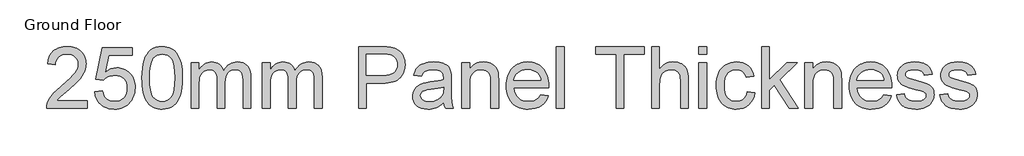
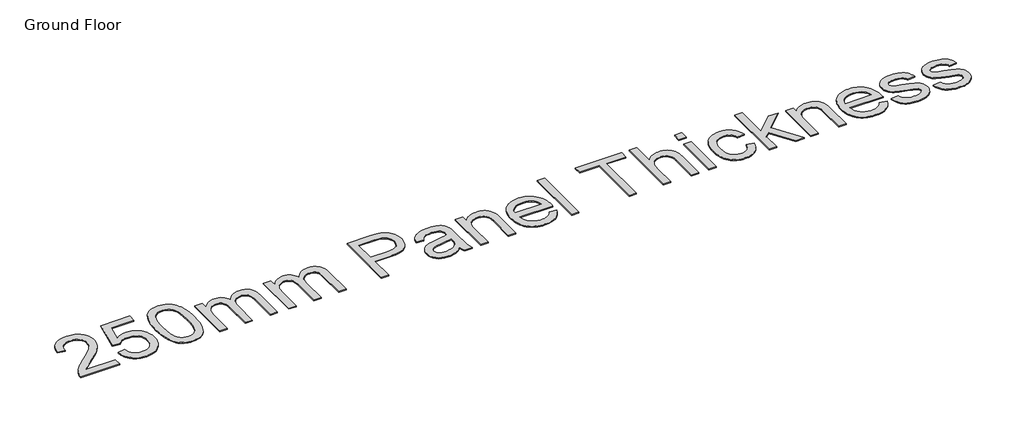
# One storey, part 12 of 12: 1 proxy.
"""IFC4 building model written with IfcOpenShell, lengths in millimetres."""

from ifc_helpers import new_model, si_unit, origin, origin_with_axes, place, context, project, spatial, polyline, outline, extrude, element, save

model = new_model("IFC4")

# Units and contexts
model_context = context("Model", 3, world=origin())
ifc_project = project(units=[si_unit("LENGTHUNIT", "METRE", prefix="MILLI")], contexts=[model_context])

# Site, building, storey
site = spatial("IfcSite", under=ifc_project)
building = spatial("IfcBuilding", under=site)
storey = spatial("IfcBuildingStorey", under=building, Name="Ground Floor", Elevation=0.0)

# Proxy
placement = place(None, origin())
element("IfcBuildingElementProxy", 1, Name="1200mm Arial", ObjectType="1200mm Arial", at=placement, inside=storey, context=model_context, shape_type="SweptSolid", body=[
    extrude(outline(polyline([(180918.008716, 23161.0787155), (180918.008716, 23010.3942503), (180126.9152736, 23010.3942503), (180130.2262116, 23063.442834), (180143.1020814, 23114.2841257), (180159.5280125, 23155.1834065), (180180.2581629, 23195.475682), (180205.2925327, 23235.1609523), (180234.6311218, 23274.2392172), (180270.0397638, 23314.2371871), (180313.2842924, 23356.6815723), (180423.2810089, 23448.9095885), (180512.713122, 23525.8521078), (180585.8848508, 23593.3400598), (180642.7961955, 23651.3734446), (180683.4471559, 23699.952262), (180711.9028282, 23743.5094903), (180732.2283085, 23786.4781073), (180744.4235966, 23828.8581131), (180748.4886927, 23870.6495078), (180744.6535229, 23909.966896), (180733.1480135, 23946.102105), (180713.9721645, 23979.0551347), (180687.1259759, 24008.8259852), (180654.0993698, 24033.4832759), (180616.3822682, 24051.0956264), (180573.9746712, 24061.6630367), (180526.8765788, 24065.1855068), (180477.2584947, 24061.7458102), (180432.882729, 24051.4267202), (180393.7492818, 24034.2282369), (180359.858153, 24010.1503604), (180332.4417473, 23980.0024309), (180312.7324694, 23944.5937888), (180300.7303193, 23903.9244342), (180296.435297, 23857.9943672), (180145.7508318, 23876.8299253), (180158.709475, 23954.6185732), (180169.16882, 23989.8294786), (180182.2815139, 24022.5847718), (180198.0475566, 24052.8844526), (180216.4669483, 24080.7285211), (180237.5396888, 24106.1169773), (180261.2657783, 24129.0498212), (180287.3876992, 24149.3982941), (180315.6479342, 24167.0336372), (180346.0464833, 24181.9558506), (180378.5833465, 24194.1649343), (180450.0720152, 24210.4437126), (180530.1139403, 24215.8699721), (180610.8732353, 24209.8367073), (180647.9212515, 24202.2951264), (180682.7481801, 24191.7369132), (180715.3540212, 24178.1620676), (180745.7387748, 24161.5705896), (180773.9024407, 24141.9624792), (180799.8450192, 24119.3377365), (180823.1250517, 24094.4781107), (180843.3010799, 24068.165351), (180860.3731037, 24040.3994574), (180874.3411232, 24011.1804299), (180885.2051384, 23980.5082686), (180892.9651492, 23948.3829734), (180897.6211557, 23914.8045443), (180899.1731579, 23879.7729813), (180897.4992948, 23843.58259), (180892.4777056, 23807.7048984), (180884.1083902, 23772.1399065), (180872.3913486, 23736.8876143), (180856.783955, 23701.3318195), (180836.7435833, 23664.8563197), (180783.3639058, 23589.1462051), (180746.529721, 23547.1616724), (180698.2728003, 23498.7575989), (180567.490751, 23382.6908294), (180394.1447549, 23237.7453233), (180356.547215, 23199.522384), (180326.1601622, 23161.0787155), (180918.008716, 23161.0787155)])), origin_with_axes(), (0.0, 0.0, 1.0), 20.0),
    extrude(outline(polyline([(181068.6931813, 23330.5987389), (181219.3776465, 23349.434297), (181230.6348355, 23300.9934353), (181247.0423725, 23258.9721144), (181268.6002574, 23223.3703343), (181295.3084903, 23194.1880951), (181327.1118888, 23171.4621848), (181363.9552706, 23155.2293918), (181405.8386357, 23145.4897159), (181452.7619842, 23142.2431573), (181510.1515755, 23146.7589088), (181560.772138, 23160.3061633), (181604.6236718, 23182.8849208), (181641.706177, 23214.4951812), (181671.1919189, 23253.5734461), (181692.2531631, 23298.5562171), (181704.8899096, 23349.4434941), (181709.1021585, 23406.2352771), (181705.1566241, 23459.9092602), (181693.3200209, 23507.6235549), (181673.5923489, 23549.3781614), (181645.9736081, 23585.1730795), (181610.371828, 23613.8862693), (181566.6950381, 23634.3956905), (181514.9432385, 23646.7013432), (181455.116429, 23650.8032275), (181416.8291104, 23649.1661526), (181382.0182766, 23644.254928), (181350.6839276, 23636.0695536), (181322.8260635, 23624.6100294), (181275.5532272, 23594.5172822), (181238.2132046, 23556.6254367), (181087.5287394, 23575.4609949), (181219.3776465, 24197.0344139), (181803.2799492, 24197.0344139), (181803.2799492, 24046.3499487), (181341.2201633, 24046.3499487), (181276.7672377, 23714.3732362), (181329.9445801, 23752.4858109), (181384.4095095, 23779.7090786), (181440.1620259, 23796.0430392), (181497.2021293, 23801.4876927), (181534.64102, 23799.800034), (181570.5853902, 23794.7370581), (181605.0352398, 23786.2987648), (181637.9905688, 23774.4851542), (181669.4513772, 23759.2962264), (181699.4176649, 23740.7319812), (181727.8894321, 23718.7924187), (181754.8666787, 23693.4775389), (181779.4572908, 23665.5093102), (181800.7691546, 23635.6097011), (181818.8022702, 23603.7787114), (181833.5566374, 23570.0163413), (181845.0322564, 23534.3225907), (181853.2291271, 23496.6974597), (181858.1472496, 23457.1409482), (181859.7866237, 23415.6530562), (181853.8821177, 23337.5884968), (181846.5014851, 23300.5979622), (181836.1685996, 23264.9685909), (181822.8834611, 23230.7003831), (181806.6460695, 23197.7933386), (181787.4564249, 23166.2474575), (181765.3145273, 23136.0627398), (181735.3137506, 23102.1946036), (181702.7010118, 23072.8422189), (181667.4763107, 23048.0055857), (181629.6396475, 23027.684704), (181589.1910221, 23011.8795738), (181546.1304346, 23000.5901951), (181500.4578849, 22993.8165679), (181452.173373, 22991.5586921), (181374.4123163, 22997.3620306), (181338.352983, 23004.6162037), (181304.1744464, 23014.772046), (181271.8767065, 23027.8295576), (181241.4597633, 23043.7887384), (181212.9236167, 23062.6495884), (181186.2682669, 23084.4121077), (181161.9305737, 23108.5704585), (181140.3473969, 23134.618803), (181121.5187365, 23162.5571413), (181105.4445926, 23192.3854733), (181092.1249651, 23224.103799), (181081.5598541, 23257.7121186), (181068.6931813, 23330.5987389)])), origin_with_axes(), (0.0, 0.0, 1.0), 20.0),
    extrude(outline(polyline([(181991.6355308, 23603.4200265), (181994.4038428, 23704.7807132), (182002.7087788, 23796.374133), (182016.5503389, 23878.2002857), (182035.928523, 23950.2591715), (182060.7605577, 24013.1394016), (182090.9636695, 24067.429587), (182126.5378584, 24113.1297279), (182167.4831245, 24150.2398241), (182213.9374234, 24178.9530138), (182266.038711, 24199.4624351), (182323.7869872, 24211.7680878), (182387.182252, 24215.8699721), (182434.8229704, 24213.4419509), (182480.0356676, 24206.1578874), (182522.8203436, 24194.0177815), (182563.1769985, 24177.0216334), (182600.1307449, 24155.4545514), (182632.7066956, 24129.6016442), (182660.9048505, 24099.4629117), (182684.7252097, 24065.038354), (182705.3633896, 24026.4659268), (182724.0150068, 23983.8835859), (182755.3585528, 23886.6891628), (182767.3331117, 23829.5294978), (182775.8863681, 23763.2647534), (182781.0183219, 23687.8949296), (182782.7289732, 23603.4200265), (182779.9882523, 23502.7031333), (182771.7660897, 23411.569566), (182758.0624854, 23330.0193247), (182738.8774394, 23258.0524094), (182714.2385427, 23195.1445882), (182684.1733867, 23140.7716294), (182648.6819712, 23094.9335328), (182607.7642963, 23057.6302984), (182561.2548151, 23028.7239707), (182508.9879806, 23008.0765937), (182450.9637929, 22995.6881675), (182387.182252, 22991.5586921), (182344.5079405, 22993.3521168), (182304.1880739, 22998.732391), (182266.222652, 23007.6995146), (182230.6116748, 23020.2534877), (182197.3551425, 23036.3943103), (182166.4530549, 23056.1219823), (182137.9054121, 23079.4365037), (182111.712214, 23106.3378746), (182083.5692414, 23148.9340111), (182059.1786651, 23197.1127569), (182038.5404852, 23250.874112), (182021.6547016, 23310.2180763), (182008.5213143, 23375.14465), (181999.1403235, 23445.6538329), (181993.5117289, 23521.745625), (181991.6355308, 23603.4200265)]), holes=[polyline([(182142.319996, 23603.7143321), (182146.7345799, 23472.7207507), (182159.9783318, 23366.6879626), (182169.9111456, 23323.0318661), (182182.0512515, 23285.6159679), (182196.3986493, 23254.4402681), (182212.9533391, 23229.5047666), (182250.3301498, 23191.3278125), (182291.8272388, 23164.0585596), (182337.4446062, 23147.6970079), (182387.182252, 23142.2431573), (182436.9198977, 23147.715402), (182482.5372651, 23164.132136), (182524.0343542, 23191.4933594), (182561.4111649, 23229.7990722), (182577.9658547, 23254.7943545), (182592.3132525, 23286.002244), (182604.4533583, 23323.4227407), (182614.3861722, 23367.0558446), (182627.629924, 23472.9598739), (182632.044508, 23603.7143321), (182627.7770768, 23731.2406257), (182614.9747834, 23835.4064126), (182605.3730633, 23878.7291161), (182593.6376277, 23916.2116929), (182579.7684765, 23947.854143), (182563.7656097, 23973.6564664), (182527.0141983, 24013.7004216), (182485.0388627, 24042.3032467), (182437.8396027, 24059.4649418), (182385.4164184, 24065.1855068), (182335.9362901, 24060.1455235), (182291.0914748, 24045.0255735), (182250.8819728, 24019.8256568), (182215.3077838, 23984.5457735), (182198.2012711, 23955.9981307), (182183.3756267, 23922.0058343), (182170.8308506, 23882.5688844), (182160.566943, 23837.687281), (182146.8817327, 23731.5901136), (182142.319996, 23603.7143321)])]), origin_with_axes(), (0.0, 0.0, 1.0), 20.0),
    extrude(outline(polyline([(182952.2489966, 23010.3942503), (182952.2489966, 23895.6654835), (183102.9334618, 23895.6654835), (183102.9334618, 23749.9842134), (183123.9763119, 23785.2548997), (183148.2565236, 23816.9019483), (183175.7740968, 23844.9253593), (183206.5290316, 23869.3251326), (183240.0246873, 23889.0895928), (183275.7644231, 23903.2070644), (183313.7482391, 23911.6775473), (183353.9761353, 23914.5010416), (183397.9564278, 23911.622365), (183437.7796538, 23902.9863352), (183473.4458132, 23888.5929521), (183504.9549061, 23868.4422158), (183532.214962, 23843.1043434), (183555.1340103, 23813.1495519), (183573.712051, 23778.5778414), (183587.9490842, 23739.3892119), (183614.4457849, 23780.431047), (183642.8738661, 23816.0006374), (183673.2333278, 23846.0979831), (183705.5241699, 23870.7230842), (183739.7463925, 23889.8759406), (183775.8999956, 23903.5565523), (183813.9849791, 23911.7649193), (183854.0013432, 23914.5010416), (183914.3247933, 23909.9485019), (183967.2722095, 23896.2908828), (184012.8435916, 23873.5281844), (184051.0389398, 23841.6604066), (184067.2142512, 23822.2201424), (184081.2328545, 23800.3196674), (184102.7999365, 23749.1380848), (184115.7401857, 23688.1156588), (184120.0536021, 23617.2523895), (184120.0536021, 23010.3942503), (183969.3691368, 23010.3942503), (183969.3691368, 23552.5051584), (183965.8742579, 23627.66345), (183955.389621, 23678.3208007), (183946.9835174, 23696.5953388), (183935.7447225, 23713.0120729), (183921.6732362, 23727.5710028), (183904.7690585, 23740.2721287), (183885.6483918, 23750.5728246), (183864.9274384, 23757.9304645), (183818.6846716, 23763.8165764), (183775.982769, 23760.0457859), (183737.0516569, 23748.7334146), (183701.8913352, 23729.8794623), (183670.501804, 23703.4839292), (183644.6856849, 23668.7742629), (183626.2455999, 23624.9779114), (183615.1815489, 23572.0948746), (183611.4935319, 23510.1251525), (183611.4935319, 23010.3942503), (183460.8090667, 23010.3942503), (183460.8090667, 23569.2805773), (183458.6293659, 23614.9347329), (183452.0902634, 23654.4820474), (183441.1917593, 23687.9225208), (183425.9338536, 23715.256153), (183405.7095409, 23736.5013382), (183379.911816, 23751.6764705), (183348.5406788, 23760.7815499), (183311.5961295, 23763.8165764), (183282.000023, 23761.7932254), (183253.5443506, 23755.7231725), (183226.2291125, 23745.6064176), (183200.0543085, 23731.4429608), (183176.2155552, 23713.3799548), (183155.9084691, 23691.5645525), (183139.1330501, 23665.9967539), (183125.8892983, 23636.6765589), (183115.8461198, 23602.040469), (183108.6724209, 23560.5249859), (183104.3682016, 23512.1301094), (183102.9334618, 23456.8558396), (183102.9334618, 23010.3942503), (182952.2489966, 23010.3942503)])), origin_with_axes(), (0.0, 0.0, 1.0), 20.0),
    extrude(outline(polyline([(184346.0802999, 23010.3942503), (184346.0802999, 23895.6654835), (184496.7647651, 23895.6654835), (184496.7647651, 23749.9842134), (184517.8076152, 23785.2548997), (184542.0878269, 23816.9019483), (184569.6054002, 23844.9253593), (184600.360335, 23869.3251326), (184633.8559906, 23889.0895928), (184669.5957265, 23903.2070644), (184707.5795425, 23911.6775473), (184747.8074386, 23914.5010416), (184791.7877312, 23911.622365), (184831.6109571, 23902.9863352), (184867.2771166, 23888.5929521), (184898.7862095, 23868.4422158), (184926.0462653, 23843.1043434), (184948.9653136, 23813.1495519), (184967.5433544, 23778.5778414), (184981.7803876, 23739.3892119), (185008.2770883, 23780.431047), (185036.7051694, 23816.0006374), (185067.0646311, 23846.0979831), (185099.3554732, 23870.7230842), (185133.5776958, 23889.8759406), (185169.7312989, 23903.5565523), (185207.8162825, 23911.7649193), (185247.8326465, 23914.5010416), (185308.1560966, 23909.9485019), (185361.1035128, 23896.2908828), (185406.6748949, 23873.5281844), (185444.8702431, 23841.6604066), (185461.0455546, 23822.2201424), (185475.0641578, 23800.3196674), (185496.6312398, 23749.1380848), (185509.571489, 23688.1156588), (185513.8849054, 23617.2523895), (185513.8849054, 23010.3942503), (185363.2004402, 23010.3942503), (185363.2004402, 23552.5051584), (185359.7055612, 23627.66345), (185349.2209243, 23678.3208007), (185340.8148208, 23696.5953388), (185329.5760258, 23713.0120729), (185315.5045395, 23727.5710028), (185298.6003618, 23740.2721287), (185279.4796951, 23750.5728246), (185258.7587417, 23757.9304645), (185212.5159749, 23763.8165764), (185169.8140724, 23760.0457859), (185130.8829602, 23748.7334146), (185095.7226385, 23729.8794623), (185064.3331073, 23703.4839292), (185038.5169883, 23668.7742629), (185020.0769033, 23624.9779114), (185009.0128523, 23572.0948746), (185005.3248353, 23510.1251525), (185005.3248353, 23010.3942503), (184854.64037, 23010.3942503), (184854.64037, 23569.2805773), (184852.4606692, 23614.9347329), (184845.9215667, 23654.4820474), (184835.0230626, 23687.9225208), (184819.7651569, 23715.256153), (184799.5408442, 23736.5013382), (184773.7431193, 23751.6764705), (184742.3719822, 23760.7815499), (184705.4274328, 23763.8165764), (184675.8313263, 23761.7932254), (184647.3756539, 23755.7231725), (184620.0604158, 23745.6064176), (184593.8856119, 23731.4429608), (184570.0468586, 23713.3799548), (184549.7397724, 23691.5645525), (184532.9643534, 23665.9967539), (184519.7206016, 23636.6765589), (184509.6774232, 23602.040469), (184502.5037242, 23560.5249859), (184498.1995049, 23512.1301094), (184496.7647651, 23456.8558396), (184496.7647651, 23010.3942503), (184346.0802999, 23010.3942503)])), origin_with_axes(), (0.0, 0.0, 1.0), 20.0),
    extrude(outline(polyline([(186229.6361152, 23010.3942503), (186229.6361152, 24215.8699721), (186676.3920101, 24215.8699721), (186780.4290384, 24213.0004925), (186856.507035, 24204.3920538), (186898.4363854, 24195.3513538), (186936.8156745, 24182.9445335), (186971.6449024, 24167.1715929), (187002.9240691, 24148.0325321), (187030.9842682, 24125.1318779), (187056.1565938, 24098.0741572), (187078.4410456, 24066.8593699), (187097.8376238, 24031.4875161), (187113.546185, 23993.126621), (187124.7665859, 23952.9447101), (187131.4988264, 23910.9417833), (187133.7429066, 23867.1178406), (187127.6820507, 23793.1183773), (187120.1059808, 23758.3397332), (187109.4994831, 23725.0418141), (187095.8625574, 23693.22462), (187079.1952037, 23662.888151), (187059.4974221, 23634.032407), (187036.7692126, 23606.657388), (187010.0862717, 23581.6873976), (186978.5242957, 23560.0467393), (186942.0832849, 23541.7354129), (186900.763239, 23526.7534187), (186854.5641582, 23515.1007565), (186803.4860424, 23506.7774264), (186747.5288917, 23501.7834283), (186686.692706, 23500.1187622), (186380.3205804, 23500.1187622), (186380.3205804, 23010.3942503), (186229.6361152, 23010.3942503)]), holes=[polyline([(186380.3205804, 23650.8032275), (186695.5218739, 23650.8032275), (186767.9946269, 23654.2613182), (186829.1366145, 23664.6355905), (186878.9478367, 23681.9260443), (186917.4282934, 23706.1326795), (186946.1414831, 23736.6117028), (186966.6509043, 23772.7193207), (186978.9565571, 23814.455533), (186983.0584413, 23861.8203399), (186980.6396172, 23896.9898586), (186973.3831449, 23929.510627), (186961.2890243, 23959.382645), (186944.3572554, 23986.6059127), (186923.4891493, 24010.2975132), (186899.5860166, 24029.5745297), (186872.6478575, 24044.4369623), (186842.674672, 24054.884811), (186784.5493167, 24062.6103329), (186691.9902067, 24065.1855068), (186380.3205804, 24065.1855068), (186380.3205804, 23650.8032275)])]), origin_with_axes(), (0.0, 0.0, 1.0), 20.0),
    extrude(outline(polyline([(187887.1652327, 23123.4075992), (187851.4346939, 23089.8751553), (187815.1707262, 23061.6770004), (187778.3733296, 23038.8131344), (187741.0425042, 23021.2835573), (187702.7551855, 23008.2789288), (187663.0883094, 22998.9899084), (187622.0418758, 22993.4164962), (187579.6158847, 22991.5586921), (187512.5234058, 22996.0284584), (187453.6898778, 23009.4377571), (187403.1153005, 23031.7865883), (187360.799674, 23063.074952), (187327.3867918, 23101.3162854), (187303.5204473, 23144.5240257), (187289.2006407, 23192.698173), (187284.4273718, 23245.8387272), (187286.2299936, 23277.7892785), (187291.6378589, 23308.30509), (187300.6509678, 23337.3861617), (187313.2693202, 23365.0324936), (187328.8215315, 23390.6370805), (187346.6362172, 23413.592917), (187366.713377, 23433.9000031), (187389.0530112, 23451.5583389), (187438.9010216, 23480.2531345), (187494.5615674, 23501.001679), (187548.7873735, 23512.5531737), (187624.9389465, 23523.6632099), (187779.0079261, 23547.5019632), (187838.4944447, 23560.9664442), (187886.2823159, 23575.4609949), (187887.1652327, 23609.0118328), (187884.5716646, 23645.5425149), (187876.7909604, 23676.2606615), (187863.8231201, 23701.1662726), (187845.6681436, 23720.2593482), (187814.2878094, 23739.3156355), (187776.0648701, 23752.9272693), (187730.9993257, 23761.0942496), (187679.0911762, 23763.8165764), (187630.8250584, 23762.0047576), (187589.3279694, 23756.5693011), (187554.599909, 23747.5102069), (187526.6408774, 23734.8274752), (187503.6666468, 23717.5278243), (187483.8929896, 23694.6179731), (187467.3199057, 23666.0979214), (187453.9473952, 23631.9676693), (187303.2629299, 23650.8032275), (187314.7316511, 23694.2133029), (187329.4193398, 23733.2087944), (187347.3259959, 23767.7897019), (187368.4516195, 23797.9560255), (187393.7067184, 23824.3147705), (187424.0018007, 23847.4729421), (187459.3368664, 23867.4305403), (187499.7119154, 23884.1875652), (187544.3084102, 23897.4497111), (187592.3078135, 23906.9226725), (187643.7101253, 23912.6064493), (187698.5153455, 23914.5010416), (187752.0881611, 23912.8271785), (187800.38187, 23907.8055893), (187843.3964723, 23899.4362739), (187881.131968, 23887.7192324), (187913.9010567, 23873.4730021), (187942.0164382, 23857.5161206), (187965.4781124, 23839.8485877), (187984.2860794, 23820.4704036), (187999.5347881, 23798.9033217), (188012.3186874, 23774.6690952), (188030.492058, 23718.199209), (188036.0102879, 23666.1071185), (188037.8496979, 23586.3503019), (188037.8496979, 23398.8776372), (188039.7626843, 23235.5748195), (188045.5016434, 23137.0928094), (188056.8324088, 23072.3823665), (188075.5208142, 23010.3942503), (187924.836349, 23010.3942503), (187911.4454444, 23035.5573787), (187900.7032901, 23062.7806464), (187887.1652327, 23123.4075992)]), holes=[polyline([(187887.1652327, 23424.7765296), (187841.6214417, 23411.7351129), (187785.9241076, 23399.6869776), (187644.0688103, 23378.570551), (187565.8938863, 23367.0190564), (187514.4271952, 23354.1431866), (187480.6924162, 23337.441344), (187455.7132287, 23314.4119311), (187440.2621849, 23286.8207814), (187435.111837, 23256.4337286), (187437.9169372, 23233.0180396), (187446.3322379, 23211.6257016), (187460.3577389, 23192.2567146), (187479.9934404, 23174.9110785), (187505.0554013, 23160.618863), (187535.3596807, 23150.4101376), (187570.9062785, 23144.2849024), (187611.6951947, 23142.2431573), (187653.3394365, 23144.4964346), (187692.6292336, 23151.2562662), (187729.5645859, 23162.5226523), (187764.1454935, 23178.2955929), (187795.3418867, 23197.2691068), (187822.1236959, 23218.1372129), (187844.4909212, 23240.8999114), (187862.4435626, 23265.5572021), (187872.8730172, 23287.6301218), (187880.3226276, 23314.4119311), (187884.7923938, 23345.9026299), (187886.2823159, 23382.1022182), (187887.1652327, 23424.7765296)])]), origin_with_axes(), (0.0, 0.0, 1.0), 20.0),
    extrude(outline(polyline([(188245.0408376, 23010.3942503), (188245.0408376, 23895.6654835), (188395.7253028, 23895.6654835), (188395.7253028, 23772.0571331), (188420.5849286, 23805.4424241), (188448.0749107, 23834.3763431), (188478.1952491, 23858.8588898), (188510.9459437, 23878.8900645), (188546.3269946, 23894.469867), (188584.3384017, 23905.5982973), (188624.9801652, 23912.2753555), (188668.2522848, 23914.5010416), (188706.1717215, 23912.7076169), (188742.5276597, 23907.3273427), (188777.3200994, 23898.3602191), (188810.5490406, 23885.806246), (188840.9544875, 23870.3368081), (188867.2764442, 23852.62329), (188889.5149108, 23832.6656918), (188907.6698873, 23810.4640134), (188935.0770959, 23759.4387806), (188952.8457963, 23699.6579564), (188958.8054846, 23642.4890944), (188960.7920474, 23553.9766863), (188960.7920474, 23010.3942503), (188810.1075822, 23010.3942503), (188810.1075822, 23533.6696002), (188805.7665746, 23611.5870068), (188800.3403152, 23642.1028183), (188792.743552, 23666.9900353), (188782.3968709, 23687.9501119), (188768.7208577, 23706.6845025), (188751.7155125, 23723.1932071), (188731.3808352, 23737.4762255), (188708.4158017, 23749.000129), (188683.5193876, 23757.2314887), (188656.6915931, 23762.1703045), (188627.9324182, 23763.8165764), (188582.177095, 23760.1193623), (188539.6775275, 23749.0277202), (188500.4337157, 23730.5416499), (188464.4456595, 23704.6611516), (188448.3393259, 23688.2122279), (188434.3805034, 23668.4431691), (188422.5691921, 23645.3539754), (188412.905392, 23618.9446467), (188400.0203251, 23556.1655842), (188395.7253028, 23480.1059817), (188395.7253028, 23010.3942503), (188245.0408376, 23010.3942503)])), origin_with_axes(), (0.0, 0.0, 1.0), 20.0),
    extrude(outline(polyline([(189787.7907726, 23274.0920644), (189935.5321818, 23255.2565063), (189912.879848, 23196.0826873), (189882.2996571, 23143.9354145), (189843.7916093, 23098.8146878), (189797.3557044, 23060.7205072), (189743.4701892, 23030.4622131), (189682.6133101, 23008.8491459), (189614.7850673, 22995.8813056), (189539.9854606, 22991.5586921), (189491.9630647, 22993.423394), (189446.4882515, 22999.0174996), (189403.5610212, 23008.3410089), (189363.1813737, 23021.3939219), (189325.349309, 23038.1762387), (189290.0648272, 23058.6879592), (189257.3279281, 23082.9290834), (189227.1386119, 23110.8996113), (189200.0303074, 23142.2362595), (189176.5364435, 23176.5757445), (189156.6570202, 23213.9180663), (189140.3920374, 23254.2632249), (189127.7414953, 23297.6112202), (189118.7053938, 23343.9620523), (189113.2837329, 23393.3157213), (189111.4765126, 23445.672227), (189113.302127, 23499.8106611), (189118.7789702, 23550.8312953), (189127.9070422, 23598.7341296), (189140.686343, 23643.519164), (189157.1168726, 23685.1863984), (189177.1986311, 23723.735833), (189200.9316183, 23759.1674677), (189228.3158343, 23791.4813024), (189258.6109166, 23820.3140538), (189291.0765027, 23845.3024383), (189325.7125925, 23866.446456), (189362.5191861, 23883.7461068), (189401.4962835, 23897.2013908), (189442.6438847, 23906.8123079), (189485.9619896, 23912.5788582), (189531.4505983, 23914.5010416), (189575.4515842, 23912.5834567), (189617.3970294, 23906.830702), (189657.286934, 23897.2427775), (189695.121298, 23883.8196832), (189730.9001213, 23866.5614191), (189764.6234039, 23845.4679852), (189796.2911459, 23820.5393815), (189825.9033473, 23791.775608), (189852.7012513, 23759.5353497), (189875.9261015, 23724.1772914), (189895.5778979, 23685.7014332), (189911.6566403, 23644.1077752), (189924.1623289, 23599.3963172), (189933.0949636, 23551.5670593), (189938.4545444, 23500.6200015), (189940.2410714, 23446.5551437), (189939.3581546, 23405.9409715), (189262.1609778, 23405.9409715), (189270.8889782, 23345.8106594), (189288.2438113, 23293.1483518), (189314.2254772, 23247.9540486), (189348.8339759, 23210.22775), (189390.156321, 23180.4844907), (189436.2795262, 23159.2393055), (189487.2035913, 23146.4921944), (189542.9285166, 23142.2431573), (189584.6095466, 23144.211326), (189623.1267915, 23150.115832), (189658.4802513, 23159.9566754), (189690.6699258, 23173.7338561), (189719.6958152, 23191.8152562), (189745.5579195, 23214.5687576), (189768.2562386, 23241.9943603), (189787.7907726, 23274.0920644)]), holes=[polyline([(189262.1609778, 23556.6254367), (189789.5566061, 23556.6254367), (189781.8126901, 23599.2629599), (189769.1759436, 23636.2351005), (189751.6463665, 23667.5418582), (189729.2239589, 23693.1832333), (189688.1315401, 23724.0853209), (189641.3737385, 23746.1582406), (189588.9505542, 23759.4019924), (189530.8619871, 23763.8165764), (189477.8777828, 23760.2941063), (189429.2897683, 23749.726696), (189385.0979436, 23732.1143455), (189345.3023088, 23707.4570547), (189311.9078206, 23676.895258), (189286.9194361, 23641.5693894), (189270.3371552, 23601.479449), (189262.1609778, 23556.6254367)])]), origin_with_axes(), (0.0, 0.0, 1.0), 20.0),
    extrude(outline(polyline([(190090.9255366, 23010.3942503), (190090.9255366, 24215.8699721), (190241.6100018, 24215.8699721), (190241.6100018, 23010.3942503), (190090.9255366, 23010.3942503)])), origin_with_axes(), (0.0, 0.0, 1.0), 20.0),
    extrude(outline(polyline([(191258.7301421, 23010.3942503), (191258.7301421, 24065.1855068), (190863.1834209, 24065.1855068), (190863.1834209, 24215.8699721), (191804.9613285, 24215.8699721), (191804.9613285, 24065.1855068), (191409.4146073, 24065.1855068), (191409.4146073, 23010.3942503), (191258.7301421, 23010.3942503)])), origin_with_axes(), (0.0, 0.0, 1.0), 20.0),
    extrude(outline(polyline([(191955.6457937, 23010.3942503), (191955.6457937, 24215.8699721), (192106.330259, 24215.8699721), (192106.330259, 23772.6457443), (192133.1534549, 23805.8930796), (192161.6781051, 23834.7074369), (192191.9042096, 23859.0888161), (192223.8317682, 23879.0372173), (192257.4607811, 23894.5526404), (192292.7912482, 23905.6350855), (192329.8231696, 23912.2845526), (192368.5565451, 23914.5010416), (192415.6638346, 23912.0822175), (192459.5705507, 23904.8257451), (192500.2766935, 23892.7316245), (192537.7822629, 23875.7998557), (192571.1307658, 23854.6006557), (192599.3657089, 23829.7042417), (192622.4870923, 23801.1106136), (192640.494916, 23768.8197715), (192654.0145793, 23730.8359555), (192663.6714817, 23685.1634058), (192669.4656231, 23631.8021224), (192671.3970035, 23570.7521053), (192671.3970035, 23010.3942503), (192520.7125383, 23010.3942503), (192520.7125383, 23555.1539087), (192517.7143001, 23606.0319887), (192508.7195853, 23649.4788523), (192493.728394, 23685.4944996), (192472.7407262, 23714.0789306), (192446.2532225, 23735.8391507), (192414.7625237, 23751.3821649), (192378.2686298, 23760.7079735), (192336.7715407, 23763.8165764), (192304.4439104, 23761.719649), (192273.0911674, 23755.4288669), (192242.7133116, 23744.94423), (192213.3103432, 23730.2657384), (192186.4733516, 23712.0003974), (192163.7934266, 23690.7552121), (192145.2705681, 23666.5301828), (192130.9047762, 23639.3253092), (192120.1534249, 23607.8897927), (192112.4738883, 23570.9728345), (192107.8661663, 23528.5744346), (192106.330259, 23480.6945929), (192106.330259, 23010.3942503), (191955.6457937, 23010.3942503)])), origin_with_axes(), (0.0, 0.0, 1.0), 20.0),
    extrude(outline(polyline([(192878.5881432, 23010.3942503), (192878.5881432, 23895.6654835), (193029.2726085, 23895.6654835), (193029.2726085, 23010.3942503), (192878.5881432, 23010.3942503)])), origin_with_axes(), (0.0, 0.0, 1.0), 20.0),
    extrude(outline(polyline([(192878.5881432, 24065.1855068), (192878.5881432, 24215.8699721), (193029.2726085, 24215.8699721), (193029.2726085, 24065.1855068), (192878.5881432, 24065.1855068)])), origin_with_axes(), (0.0, 0.0, 1.0), 20.0),
    extrude(outline(polyline([(193820.3660509, 23330.5987389), (193971.0505161, 23311.7631807), (193954.6613732, 23240.6607881), (193929.0383923, 23177.7437699), (193894.1815732, 23123.012126), (193850.0909161, 23076.4658566), (193798.624225, 23039.3189721), (193741.6393039, 23012.7854832), (193679.1361529, 22996.8653899), (193611.114772, 22991.5586921), (193567.7667767, 22993.4095984), (193526.6030807, 22998.9623173), (193487.623684, 23008.2168487), (193450.8285867, 23021.1731927), (193416.2177888, 23037.8313493), (193383.7912902, 23058.1913185), (193353.5490909, 23082.2531002), (193325.491191, 23110.0166946), (193300.2108001, 23141.2383796), (193278.301128, 23175.6744336), (193259.7621747, 23213.3248566), (193244.5939402, 23254.1896485), (193232.7964245, 23298.2688093), (193224.3696275, 23345.562339), (193219.3135494, 23396.0702377), (193217.62819, 23449.7925053), (193220.5068666, 23519.073882), (193229.1428964, 23583.8854925), (193243.5362795, 23644.2273368), (193263.6870158, 23700.0994148), (193289.733061, 23750.3796865), (193321.812371, 23793.9461118), (193359.9249457, 23830.7986907), (193404.0707851, 23860.9374231), (193452.2541295, 23884.3715062), (193502.4792189, 23901.110137), (193554.7460533, 23911.1533155), (193609.0546329, 23914.5010416), (193675.9079884, 23909.9025167), (193736.3785914, 23896.1069419), (193790.4664417, 23873.1143172), (193838.1715395, 23840.9246426), (193878.6845442, 23800.2736821), (193911.1961155, 23751.8971997), (193935.7062534, 23695.7951955), (193952.214958, 23631.9676693), (193801.5304927, 23613.1321112), (193789.7674659, 23648.329221), (193774.1968605, 23678.8726237), (193754.8186764, 23704.7623191), (193731.6329136, 23725.9983073), (193705.2281834, 23742.5438), (193676.193097, 23754.3620091), (193644.5276542, 23761.4529346), (193610.2318552, 23763.8165764), (193559.0318786, 23759.1628691), (193512.8534911, 23745.2017474), (193471.6966929, 23721.9332112), (193435.5614839, 23689.3572606), (193419.8000397, 23669.3904653), (193406.1401214, 23646.7197373), (193385.1248624, 23593.2664834), (193372.515707, 23528.9974989), (193368.3126552, 23453.9127836), (193372.4237365, 23377.6968313), (193384.7569804, 23312.6828857), (193405.3123869, 23258.8709469), (193418.6734011, 23236.16573), (193434.0899559, 23216.2610148), (193469.507795, 23183.8782021), (193509.9840116, 23160.7476217), (193555.5186055, 23146.8692734), (193606.1115769, 23142.2431573), (193646.882099, 23145.131031), (193684.1393481, 23153.794652), (193717.8833241, 23168.2340203), (193748.114027, 23188.4491359), (193773.9853283, 23214.6607281), (193794.6510994, 23247.089526), (193810.1113403, 23285.7355296), (193820.3660509, 23330.5987389)])), origin_with_axes(), (0.0, 0.0, 1.0), 20.0),
    extrude(outline(polyline([(194102.8994232, 23010.3942503), (194102.8994232, 24215.8699721), (194253.5838884, 24215.8699721), (194253.5838884, 23568.103355), (194591.4467128, 23895.6654835), (194799.8150748, 23895.6654835), (194457.8319721, 23563.9830766), (194818.650633, 23010.3942503), (194642.6558865, 23010.3942503), (194349.8218183, 23459.2102844), (194253.5838884, 23365.9154104), (194253.5838884, 23010.3942503), (194102.8994232, 23010.3942503)])), origin_with_axes(), (0.0, 0.0, 1.0), 20.0),
    extrude(outline(polyline([(194950.4995401, 23010.3942503), (194950.4995401, 23895.6654835), (195101.1840053, 23895.6654835), (195101.1840053, 23772.0571331), (195126.0436311, 23805.4424241), (195153.5336132, 23834.3763431), (195183.6539516, 23858.8588898), (195216.4046462, 23878.8900645), (195251.7856971, 23894.469867), (195289.7971042, 23905.5982973), (195330.4388676, 23912.2753555), (195373.7109873, 23914.5010416), (195411.630424, 23912.7076169), (195447.9863621, 23907.3273427), (195482.7788018, 23898.3602191), (195516.0077431, 23885.806246), (195546.41319, 23870.3368081), (195572.7351467, 23852.62329), (195594.9736133, 23832.6656918), (195613.1285898, 23810.4640134), (195640.5357984, 23759.4387806), (195658.3044988, 23699.6579564), (195664.2641871, 23642.4890944), (195666.2507499, 23553.9766863), (195666.2507499, 23010.3942503), (195515.5662847, 23010.3942503), (195515.5662847, 23533.6696002), (195511.2252771, 23611.5870068), (195505.7990177, 23642.1028183), (195498.2022545, 23666.9900353), (195487.8555734, 23687.9501119), (195474.1795602, 23706.6845025), (195457.174215, 23723.1932071), (195436.8395377, 23737.4762255), (195413.8745041, 23749.000129), (195388.9780901, 23757.2314887), (195362.1502956, 23762.1703045), (195333.3911206, 23763.8165764), (195287.6357975, 23760.1193623), (195245.13623, 23749.0277202), (195205.8924182, 23730.5416499), (195169.904362, 23704.6611516), (195153.7980284, 23688.2122279), (195139.8392059, 23668.4431691), (195128.0278946, 23645.3539754), (195118.3640945, 23618.9446467), (195105.4790276, 23556.1655842), (195101.1840053, 23480.1059817), (195101.1840053, 23010.3942503), (194950.4995401, 23010.3942503)])), origin_with_axes(), (0.0, 0.0, 1.0), 20.0),
    extrude(outline(polyline([(196493.249475, 23274.0920644), (196640.9908843, 23255.2565063), (196618.3385505, 23196.0826873), (196587.7583596, 23143.9354145), (196549.2503118, 23098.8146878), (196502.8144069, 23060.7205072), (196448.9288917, 23030.4622131), (196388.0720126, 23008.8491459), (196320.2437698, 22995.8813056), (196245.4441631, 22991.5586921), (196197.4217671, 22993.423394), (196151.946954, 22999.0174996), (196109.0197237, 23008.3410089), (196068.6400762, 23021.3939219), (196030.8080115, 23038.1762387), (195995.5235297, 23058.6879592), (195962.7866306, 23082.9290834), (195932.5973144, 23110.8996113), (195905.4890099, 23142.2362595), (195881.995146, 23176.5757445), (195862.1157226, 23213.9180663), (195845.8507399, 23254.2632249), (195833.2001978, 23297.6112202), (195824.1640963, 23343.9620523), (195818.7424354, 23393.3157213), (195816.9352151, 23445.672227), (195818.7608295, 23499.8106611), (195824.2376727, 23550.8312953), (195833.3657447, 23598.7341296), (195846.1450455, 23643.519164), (195862.5755751, 23685.1863984), (195882.6573335, 23723.735833), (195906.3903208, 23759.1674677), (195933.7745368, 23791.4813024), (195964.0696191, 23820.3140538), (195996.5352052, 23845.3024383), (196031.171295, 23866.446456), (196067.9778886, 23883.7461068), (196106.954986, 23897.2013908), (196148.1025872, 23906.8123079), (196191.4206921, 23912.5788582), (196236.9093008, 23914.5010416), (196280.9102867, 23912.5834567), (196322.8557319, 23906.830702), (196362.7456365, 23897.2427775), (196400.5800005, 23883.8196832), (196436.3588237, 23866.5614191), (196470.0821064, 23845.4679852), (196501.7498484, 23820.5393815), (196531.3620497, 23791.775608), (196558.1599538, 23759.5353497), (196581.384804, 23724.1772914), (196601.0366004, 23685.7014332), (196617.1153428, 23644.1077752), (196629.6210314, 23599.3963172), (196638.5536661, 23551.5670593), (196643.9132469, 23500.6200015), (196645.6997738, 23446.5551437), (196644.8168571, 23405.9409715), (195967.6196803, 23405.9409715), (195976.3476807, 23345.8106594), (195993.7025138, 23293.1483518), (196019.6841797, 23247.9540486), (196054.2926784, 23210.22775), (196095.6150235, 23180.4844907), (196141.7382286, 23159.2393055), (196192.6622938, 23146.4921944), (196248.3872191, 23142.2431573), (196290.0682491, 23144.211326), (196328.585494, 23150.115832), (196363.9389537, 23159.9566754), (196396.1286283, 23173.7338561), (196425.1545177, 23191.8152562), (196451.016622, 23214.5687576), (196473.7149411, 23241.9943603), (196493.249475, 23274.0920644)]), holes=[polyline([(195967.6196803, 23556.6254367), (196495.0153086, 23556.6254367), (196487.2713926, 23599.2629599), (196474.6346461, 23636.2351005), (196457.105069, 23667.5418582), (196434.6826614, 23693.1832333), (196393.5902425, 23724.0853209), (196346.832441, 23746.1582406), (196294.4092566, 23759.4019924), (196236.3206896, 23763.8165764), (196183.3364853, 23760.2941063), (196134.7484707, 23749.726696), (196090.5566461, 23732.1143455), (196050.7610112, 23707.4570547), (196017.3665231, 23676.895258), (195992.3781386, 23641.5693894), (195975.7958577, 23601.479449), (195967.6196803, 23556.6254367)])]), origin_with_axes(), (0.0, 0.0, 1.0), 20.0),
    extrude(outline(polyline([(196739.8775646, 23274.0920644), (196890.5620298, 23292.9276226), (196899.6671092, 23258.5674442), (196914.3272067, 23228.474697), (196934.5423224, 23202.6493809), (196960.3124561, 23181.091496), (196991.7111844, 23164.0953478), (197028.8120836, 23151.955242), (197071.6151538, 23144.6711785), (197120.1203948, 23142.2431573), (197168.5704536, 23144.4688434), (197210.32506, 23151.1459016), (197245.3842142, 23162.274332), (197273.747916, 23177.8541345), (197295.6368947, 23196.4321752), (197311.2718795, 23216.5553204), (197320.6528704, 23238.2235699), (197323.7798674, 23261.4369238), (197320.6344763, 23281.7807981), (197311.1983031, 23299.8438041), (197295.4713478, 23315.6259417), (197273.4536104, 23329.1272109), (197217.0205124, 23348.2570746), (197118.3545612, 23372.0958279), (196980.8402714, 23411.8638716), (196891.4449466, 23445.8193798), (196860.7543912, 23462.8431191), (196834.0185672, 23482.8650967), (196811.2374746, 23505.8853125), (196792.4111135, 23531.9037666), (196777.6682426, 23560.1387098), (196767.1376205, 23589.8083927), (196760.8192472, 23620.9128154), (196758.7131228, 23653.4519778), (196760.4053799, 23683.2044342), (196765.4821515, 23711.8348505), (196773.9434374, 23739.3432267), (196785.7892376, 23765.7295628), (196800.5596997, 23790.4604299), (196817.7949712, 23813.0023991), (196837.495052, 23833.3554705), (196859.6599422, 23851.519644), (196901.2673959, 23875.7630675), (196955.4564138, 23896.1069419), (197018.1067176, 23909.9025167), (197085.0980289, 23914.5010416), (197135.7369855, 23912.6524346), (197183.1753688, 23907.1066135), (197227.4131787, 23897.8635784), (197268.4504153, 23884.9233292), (197305.3121912, 23868.8284919), (197337.0236192, 23850.1216925), (197363.5846992, 23828.8029308), (197384.9954313, 23804.872207), (197402.3594615, 23777.4925896), (197416.7804357, 23745.8271468), (197428.258354, 23709.8758788), (197436.7932163, 23669.6387856), (197286.108751, 23650.8032275), (197278.9258551, 23675.975553), (197267.0892519, 23698.2232166), (197250.5989415, 23717.5462184), (197229.4549238, 23733.9445584), (197203.5652284, 23747.0135663), (197172.8378847, 23756.3485719), (197137.2728928, 23761.9495753), (197096.8702527, 23763.8165764), (197050.0020865, 23762.0323487), (197010.3444075, 23756.6796657), (196977.8972155, 23747.7585273), (196952.6605106, 23735.2689336), (196933.732982, 23720.406501), (196920.2133186, 23704.366846), (196912.1015206, 23687.1499686), (196909.397588, 23668.7558688), (196913.8857483, 23645.5793031), (196927.3502294, 23624.904335), (196950.3796422, 23606.4366588), (196983.5625982, 23591.6478026), (197113.3513661, 23559.5684927), (197246.4878602, 23520.2051192), (197334.5220216, 23488.640844), (197365.4976856, 23473.2449825), (197392.9416824, 23454.722124), (197416.8540121, 23433.0722686), (197437.2346747, 23408.2954162), (197453.52265, 23380.3547787), (197465.1569181, 23349.2135678), (197472.137479, 23314.8717836), (197474.4643326, 23277.329426), (197471.7328088, 23239.6215215), (197463.5382373, 23203.0172629), (197449.8806182, 23167.5166504), (197430.7599515, 23133.1196839), (197406.4889369, 23101.1967237), (197377.380274, 23073.1181304), (197343.4339629, 23048.883904), (197304.6500036, 23028.4940444), (197262.0860568, 23012.3348278), (197216.7997832, 23000.7925302), (197168.7911828, 22993.8671516), (197118.0602556, 22991.5586921), (197036.9606698, 22996.0100643), (196966.1249916, 23009.3641807), (196905.5532211, 23031.6210414), (196879.1163013, 23046.0880008), (196855.2453583, 23062.7806464), (196814.1529394, 23102.6958429), (196781.2275009, 23151.219478), (196756.4690426, 23208.3515519), (196739.8775646, 23274.0920644)])), origin_with_axes(), (0.0, 0.0, 1.0), 20.0),
    extrude(outline(polyline([(197587.4776815, 23274.0920644), (197738.1621467, 23292.9276226), (197747.2672261, 23258.5674442), (197761.9273236, 23228.474697), (197782.1424392, 23202.6493809), (197807.912573, 23181.091496), (197839.3113013, 23164.0953478), (197876.4122005, 23151.955242), (197919.2152706, 23144.6711785), (197967.7205117, 23142.2431573), (198016.1705705, 23144.4688434), (198057.9251769, 23151.1459016), (198092.9843311, 23162.274332), (198121.3480329, 23177.8541345), (198143.2370116, 23196.4321752), (198158.8719964, 23216.5553204), (198168.2529873, 23238.2235699), (198171.3799842, 23261.4369238), (198168.2345932, 23281.7807981), (198158.79842, 23299.8438041), (198143.0714647, 23315.6259417), (198121.0537273, 23329.1272109), (198064.6206292, 23348.2570746), (197965.9546781, 23372.0958279), (197828.4403883, 23411.8638716), (197739.0450635, 23445.8193798), (197708.3545081, 23462.8431191), (197681.6186841, 23482.8650967), (197658.8375915, 23505.8853125), (197640.0112304, 23531.9037666), (197625.2683594, 23560.1387098), (197614.7377373, 23589.8083927), (197608.4193641, 23620.9128154), (197606.3132396, 23653.4519778), (197608.0054968, 23683.2044342), (197613.0822684, 23711.8348505), (197621.5435542, 23739.3432267), (197633.3893545, 23765.7295628), (197648.1598166, 23790.4604299), (197665.3950881, 23813.0023991), (197685.0951689, 23833.3554705), (197707.2600591, 23851.519644), (197748.8675128, 23875.7630675), (197803.0565307, 23896.1069419), (197865.7068344, 23909.9025167), (197932.6981458, 23914.5010416), (197983.3371024, 23912.6524346), (198030.7754857, 23907.1066135), (198075.0132956, 23897.8635784), (198116.0505322, 23884.9233292), (198152.9123081, 23868.8284919), (198184.6237361, 23850.1216925), (198211.1848161, 23828.8029308), (198232.5955482, 23804.872207), (198249.9595784, 23777.4925896), (198264.3805526, 23745.8271468), (198275.8584709, 23709.8758788), (198284.3933332, 23669.6387856), (198133.7088679, 23650.8032275), (198126.525972, 23675.975553), (198114.6893688, 23698.2232166), (198098.1990583, 23717.5462184), (198077.0550407, 23733.9445584), (198051.1653453, 23747.0135663), (198020.4380016, 23756.3485719), (197984.8730097, 23761.9495753), (197944.4703696, 23763.8165764), (197897.6022034, 23762.0323487), (197857.9445243, 23756.6796657), (197825.4973324, 23747.7585273), (197800.2606275, 23735.2689336), (197781.3330989, 23720.406501), (197767.8134355, 23704.366846), (197759.7016375, 23687.1499686), (197756.9977049, 23668.7558688), (197761.4858652, 23645.5793031), (197774.9503462, 23624.904335), (197797.9797591, 23606.4366588), (197831.1627151, 23591.6478026), (197960.951483, 23559.5684927), (198094.0879771, 23520.2051192), (198182.1221385, 23488.640844), (198213.0978025, 23473.2449825), (198240.5417993, 23454.722124), (198264.454129, 23433.0722686), (198284.8347916, 23408.2954162), (198301.1227669, 23380.3547787), (198312.757035, 23349.2135678), (198319.7375958, 23314.8717836), (198322.0644495, 23277.329426), (198319.3329257, 23239.6215215), (198311.1383542, 23203.0172629), (198297.4807351, 23167.5166504), (198278.3600684, 23133.1196839), (198254.0890538, 23101.1967237), (198224.9803909, 23073.1181304), (198191.0340798, 23048.883904), (198152.2501205, 23028.4940444), (198109.6861736, 23012.3348278), (198064.3999, 23000.7925302), (198016.3912997, 22993.8671516), (197965.6603725, 22991.5586921), (197884.5607867, 22996.0100643), (197813.7251085, 23009.3641807), (197753.153338, 23031.6210414), (197726.7164181, 23046.0880008), (197702.8454752, 23062.7806464), (197661.7530563, 23102.6958429), (197628.8276178, 23151.219478), (197604.0691595, 23208.3515519), (197587.4776815, 23274.0920644)])), origin_with_axes(), (0.0, 0.0, 1.0), 20.0),
])

save(model, "model.ifc")
